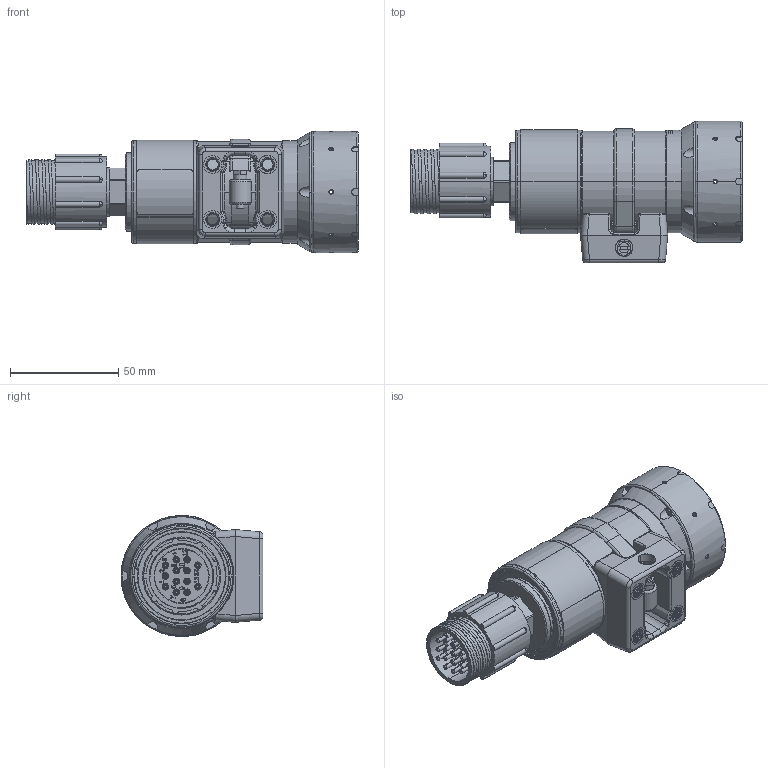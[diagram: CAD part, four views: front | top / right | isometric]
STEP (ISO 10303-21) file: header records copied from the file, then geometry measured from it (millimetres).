
FILE_DESCRIPTION (( 'STEP AP214' ), '1' );
FILE_NAME ('S11253_(MV100-F-TI-BFS-032-C-027-I-SUDBH13MS-13C007)_STEP.STEP', '2024-08-22T15:48:13', ( '' ), ( '' ), 'SwSTEP 2.0', 'SolidWorks 2023', '' );
FILE_SCHEMA (( 'AUTOMOTIVE_DESIGN' ));
Length unit declared in the file: millimetre
Products named in the file (1): S11253_(MV100-F-TI-BFS-032-C-027-I-SUDBH13MS-13C007)_STEP
Bounding box: 153.6 x 65.63 x 56.01 mm (x, y, z)
Surface area: 51832.6 mm2 (no closed solid volume)
Topology: 0 solids, 31 shells, 797 faces, 2855 edges, 2052 vertices
Faces by surface type: cylinder 358, bspline 132, plane 131, cone 78, torus 76, sphere 22
Entity records: 52487 total; most frequent: CARTESIAN_POINT 31258, ORIENTED_EDGE 4457, DIRECTION 3790, EDGE_CURVE 2829, VERTEX_POINT 2052, AXIS2_PLACEMENT_3D 1467, EDGE_LOOP 886, LINE 856
